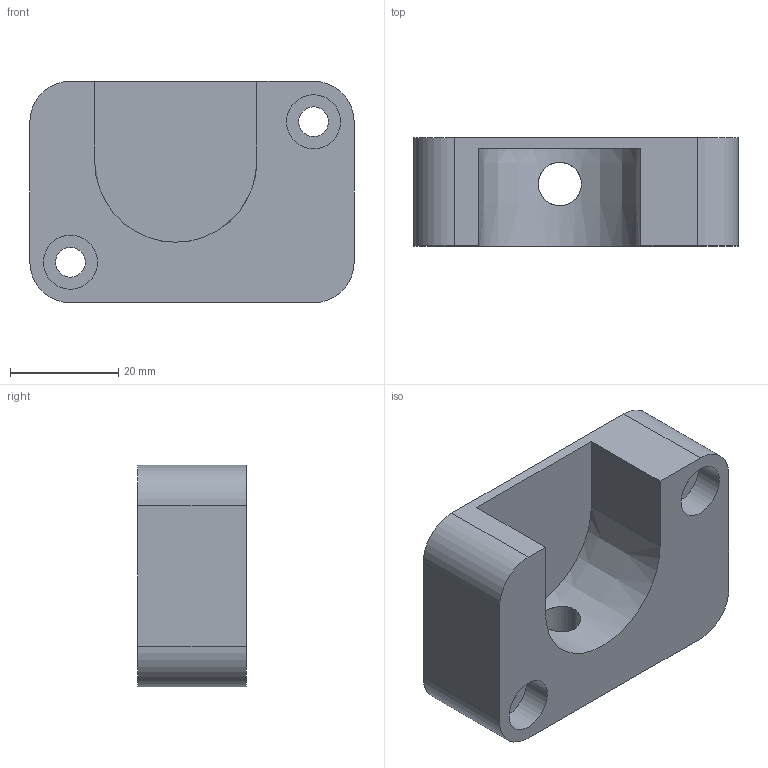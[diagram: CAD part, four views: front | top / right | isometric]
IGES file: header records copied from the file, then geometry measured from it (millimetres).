
Start section: 3D InterOp IGES (v. 2018 1.0.2), Spatial Corp. Copyright (c) 1999-2017.
Global section: file name: MAU_5004_60.igs; native system: Spatial Corp.; preprocessor: 3D InterOp GENERIC/IGES 3.0; author: Noname; organization: Noname; date: 20191010.134826; units: metre
Bounding box: 60 x 20 x 41 mm (x, y, z)
Surface area: 10383 mm2 (no closed solid volume)
Topology: 0 solids, 0 shells, 26 faces, 132 edges, 132 vertices
Faces by surface type: revolution 15, extrusion 11
